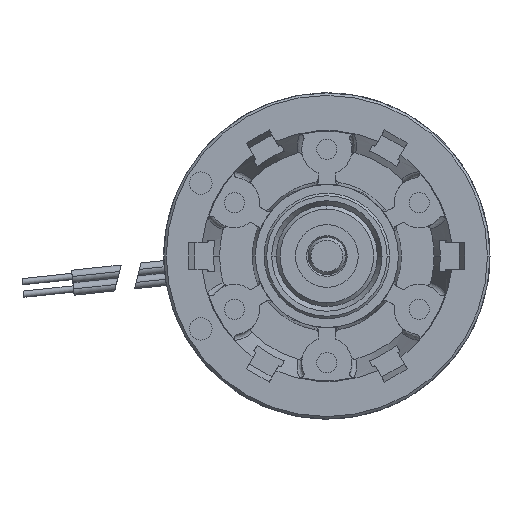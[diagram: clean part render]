
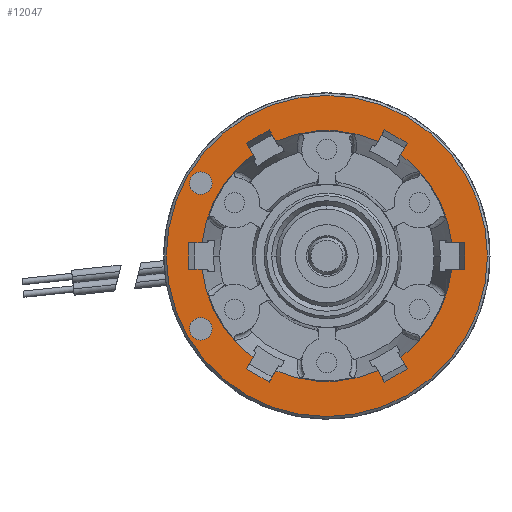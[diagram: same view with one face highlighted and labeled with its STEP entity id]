
A CAD part, left-side view. The second image highlights one B-rep face of the part: STEP entity #12047.
In plain terms, the highlighted planar face has unit normal (-1, 0, 0).
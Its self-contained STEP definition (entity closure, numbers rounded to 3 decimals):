
#4077=CARTESIAN_POINT('',(-1.6,9.945,1.05));
#4087=CARTESIAN_POINT('',(-1.6,0.,0.));
#4088=DIRECTION('',(1.,0.,0.));
#4089=DIRECTION('',(0.,0.994,0.105));
#4090=AXIS2_PLACEMENT_3D('',#4087,#4088,#4089);
#4141=CARTESIAN_POINT('',(-1.6,4.063,9.137));
#4151=CARTESIAN_POINT('',(-1.6,0.,0.));
#4152=DIRECTION('',(1.,0.,0.));
#4153=DIRECTION('',(0.,0.406,0.914));
#4154=AXIS2_PLACEMENT_3D('',#4151,#4152,#4153);
#4205=CARTESIAN_POINT('',(-1.6,-5.882,8.087));
#4215=CARTESIAN_POINT('',(-1.6,0.,0.));
#4216=DIRECTION('',(1.,0.,0.));
#4217=DIRECTION('',(0.,-0.588,0.809));
#4218=AXIS2_PLACEMENT_3D('',#4215,#4216,#4217);
#4279=CARTESIAN_POINT('',(-1.6,0.,0.));
#4280=DIRECTION('',(-1.,0.,0.));
#4281=DIRECTION('',(0.,0.994,-0.105));
#4282=AXIS2_PLACEMENT_3D('',#4279,#4280,#4281);
#4292=CARTESIAN_POINT('',(-1.6,9.945,-1.05));
#4419=CARTESIAN_POINT('',(-1.6,-9.945,-1.05));
#4429=CARTESIAN_POINT('',(-1.6,0.,0.));
#4430=DIRECTION('',(-1.,0.,0.));
#4431=DIRECTION('',(0.,-0.588,-0.809));
#4432=AXIS2_PLACEMENT_3D('',#4429,#4430,#4431);
#4483=CARTESIAN_POINT('',(-1.6,-4.063,-9.137));
#4493=CARTESIAN_POINT('',(-1.6,0.,0.));
#4494=DIRECTION('',(-1.,0.,0.));
#4495=DIRECTION('',(0.,0.406,-0.914));
#4496=AXIS2_PLACEMENT_3D('',#4493,#4494,#4495);
#4564=CARTESIAN_POINT('',(-1.6,0.,0.));
#4565=DIRECTION('',(-1.,0.,0.));
#4566=DIRECTION('',(0.,1.,0.));
#4567=AXIS2_PLACEMENT_3D('',#4564,#4565,#4566);
#4572=CARTESIAN_POINT('',(-1.6,0.,0.));
#4573=DIRECTION('',(-1.,0.,0.));
#4574=DIRECTION('',(0.,-1.,0.));
#4575=AXIS2_PLACEMENT_3D('',#4572,#4573,#4574);
#4580=CARTESIAN_POINT('',(-1.6,10.05,5.8));
#4581=DIRECTION('',(-1.,0.,0.));
#4582=DIRECTION('',(0.,0.,1.));
#4583=AXIS2_PLACEMENT_3D('',#4580,#4581,#4582);
#4588=CARTESIAN_POINT('',(-1.6,10.05,5.8));
#4589=DIRECTION('',(-1.,0.,0.));
#4590=DIRECTION('',(0.,0.,-1.));
#4591=AXIS2_PLACEMENT_3D('',#4588,#4589,#4590);
#4596=CARTESIAN_POINT('',(-1.6,10.05,-5.8));
#4597=DIRECTION('',(-1.,0.,0.));
#4598=DIRECTION('',(0.,0.,1.));
#4599=AXIS2_PLACEMENT_3D('',#4596,#4597,#4598);
#4604=CARTESIAN_POINT('',(-1.6,10.05,-5.8));
#4605=DIRECTION('',(-1.,0.,0.));
#4606=DIRECTION('',(0.,0.,-1.));
#4607=AXIS2_PLACEMENT_3D('',#4604,#4605,#4606);
#4612=DIRECTION('',(0.,-0.5,0.866));
#4613=VECTOR('',#4612,1.055);
#4614=CARTESIAN_POINT('',(-1.6,4.591,-10.051));
#4615=LINE('',#4614,#4613);
#4619=DIRECTION('',(0.,-0.5,-0.866));
#4620=VECTOR('',#4619,1.055);
#4621=CARTESIAN_POINT('',(-1.6,-4.063,-9.137));
#4622=LINE('',#4621,#4620);
#4626=DIRECTION('',(0.,0.866,-0.5));
#4627=VECTOR('',#4626,2.1);
#4628=CARTESIAN_POINT('',(-1.6,-6.409,-9.001));
#4629=LINE('',#4628,#4627);
#4633=DIRECTION('',(0.,0.5,0.866));
#4634=VECTOR('',#4633,1.055);
#4635=CARTESIAN_POINT('',(-1.6,-6.409,-9.001));
#4636=LINE('',#4635,#4634);
#4640=DIRECTION('',(0.,-1.,0.));
#4641=VECTOR('',#4640,1.055);
#4642=CARTESIAN_POINT('',(-1.6,-9.945,-1.05));
#4643=LINE('',#4642,#4641);
#4647=DIRECTION('',(0.,0.,-1.));
#4648=VECTOR('',#4647,2.1);
#4649=CARTESIAN_POINT('',(-1.6,-11.,1.05));
#4650=LINE('',#4649,#4648);
#4654=DIRECTION('',(0.,1.,0.));
#4655=VECTOR('',#4654,1.055);
#4656=CARTESIAN_POINT('',(-1.6,-11.,1.05));
#4657=LINE('',#4656,#4655);
#4661=DIRECTION('',(0.,-0.5,0.866));
#4662=VECTOR('',#4661,1.055);
#4663=CARTESIAN_POINT('',(-1.6,-5.882,8.087));
#4664=LINE('',#4663,#4662);
#4668=DIRECTION('',(0.,-0.866,-0.5));
#4669=VECTOR('',#4668,2.1);
#4670=CARTESIAN_POINT('',(-1.6,-4.591,10.051));
#4671=LINE('',#4670,#4669);
#4675=DIRECTION('',(0.,0.5,-0.866));
#4676=VECTOR('',#4675,1.055);
#4677=CARTESIAN_POINT('',(-1.6,-4.591,10.051));
#4678=LINE('',#4677,#4676);
#4682=DIRECTION('',(0.,0.5,0.866));
#4683=VECTOR('',#4682,1.055);
#4684=CARTESIAN_POINT('',(-1.6,4.063,9.137));
#4685=LINE('',#4684,#4683);
#4689=DIRECTION('',(0.,-0.866,0.5));
#4690=VECTOR('',#4689,2.1);
#4691=CARTESIAN_POINT('',(-1.6,6.409,9.001));
#4692=LINE('',#4691,#4690);
#4696=DIRECTION('',(0.,-0.5,-0.866));
#4697=VECTOR('',#4696,1.055);
#4698=CARTESIAN_POINT('',(-1.6,6.409,9.001));
#4699=LINE('',#4698,#4697);
#4703=DIRECTION('',(0.,1.,0.));
#4704=VECTOR('',#4703,1.055);
#4705=CARTESIAN_POINT('',(-1.6,9.945,1.05));
#4706=LINE('',#4705,#4704);
#4710=DIRECTION('',(0.,0.,1.));
#4711=VECTOR('',#4710,2.1);
#4712=CARTESIAN_POINT('',(-1.6,11.,-1.05));
#4713=LINE('',#4712,#4711);
#4717=DIRECTION('',(0.,-1.,0.));
#4718=VECTOR('',#4717,1.055);
#4719=CARTESIAN_POINT('',(-1.6,11.,-1.05));
#4720=LINE('',#4719,#4718);
#4724=DIRECTION('',(0.,0.5,-0.866));
#4725=VECTOR('',#4724,1.055);
#4726=CARTESIAN_POINT('',(-1.6,5.882,-8.087));
#4727=LINE('',#4726,#4725);
#4731=DIRECTION('',(0.,0.866,0.5));
#4732=VECTOR('',#4731,2.1);
#4733=CARTESIAN_POINT('',(-1.6,4.591,-10.051));
#4734=LINE('',#4733,#4732);
#8242=CARTESIAN_POINT('',(-1.6,12.8,0.));
#8243=CARTESIAN_POINT('',(-1.6,-12.8,0.));
#8244=VERTEX_POINT('',#8242);
#8245=VERTEX_POINT('',#8243);
#8258=CARTESIAN_POINT('',(-1.6,10.05,6.7));
#8259=CARTESIAN_POINT('',(-1.6,10.05,4.9));
#8260=VERTEX_POINT('',#8258);
#8261=VERTEX_POINT('',#8259);
#8262=CARTESIAN_POINT('',(-1.6,10.05,-4.9));
#8263=CARTESIAN_POINT('',(-1.6,10.05,-6.7));
#8264=VERTEX_POINT('',#8262);
#8265=VERTEX_POINT('',#8263);
#8492=VERTEX_POINT('',#4077);
#8493=VERTEX_POINT('',#4292);
#8494=CARTESIAN_POINT('',(-1.6,11.,-1.05));
#8495=VERTEX_POINT('',#8494);
#8496=CARTESIAN_POINT('',(-1.6,11.,1.05));
#8497=VERTEX_POINT('',#8496);
#8582=CARTESIAN_POINT('',(-1.6,5.882,8.087));
#8583=VERTEX_POINT('',#8582);
#8588=VERTEX_POINT('',#4141);
#8589=CARTESIAN_POINT('',(-1.6,6.409,9.001));
#8590=VERTEX_POINT('',#8589);
#8591=CARTESIAN_POINT('',(-1.6,4.591,10.051));
#8592=VERTEX_POINT('',#8591);
#8597=CARTESIAN_POINT('',(-1.6,-4.063,9.137));
#8598=VERTEX_POINT('',#8597);
#8603=VERTEX_POINT('',#4205);
#8604=CARTESIAN_POINT('',(-1.6,-4.591,10.051));
#8605=VERTEX_POINT('',#8604);
#8606=CARTESIAN_POINT('',(-1.6,-6.409,9.001));
#8607=VERTEX_POINT('',#8606);
#8614=CARTESIAN_POINT('',(-1.6,-9.945,1.05));
#8615=VERTEX_POINT('',#8614);
#8624=VERTEX_POINT('',#4419);
#8625=CARTESIAN_POINT('',(-1.6,-11.,1.05));
#8626=VERTEX_POINT('',#8625);
#8627=CARTESIAN_POINT('',(-1.6,-11.,-1.05));
#8628=VERTEX_POINT('',#8627);
#8633=CARTESIAN_POINT('',(-1.6,-5.882,-8.087));
#8634=VERTEX_POINT('',#8633);
#8639=VERTEX_POINT('',#4483);
#8640=CARTESIAN_POINT('',(-1.6,-6.409,-9.001));
#8641=VERTEX_POINT('',#8640);
#8642=CARTESIAN_POINT('',(-1.6,-4.591,-10.051));
#8643=VERTEX_POINT('',#8642);
#8648=CARTESIAN_POINT('',(-1.6,5.882,-8.087));
#8649=VERTEX_POINT('',#8648);
#8650=CARTESIAN_POINT('',(-1.6,4.063,-9.137));
#8651=VERTEX_POINT('',#8650);
#8656=CARTESIAN_POINT('',(-1.6,4.591,-10.051));
#8657=VERTEX_POINT('',#8656);
#8658=CARTESIAN_POINT('',(-1.6,6.409,-9.001));
#8659=VERTEX_POINT('',#8658);
#11982=CARTESIAN_POINT('',(-1.6,0.,0.));
#11983=DIRECTION('',(1.,0.,0.));
#11984=DIRECTION('',(0.,-1.,0.));
#11985=AXIS2_PLACEMENT_3D('',#11982,#11983,#11984);
#11986=PLANE('',#11985);
#11988=ORIENTED_EDGE('',*,*,#11987,.F.);
#11990=ORIENTED_EDGE('',*,*,#11989,.F.);
#11991=EDGE_LOOP('',(#11988,#11990));
#11992=FACE_OUTER_BOUND('',#11991,.F.);
#11994=ORIENTED_EDGE('',*,*,#11993,.T.);
#11996=ORIENTED_EDGE('',*,*,#11995,.T.);
#11997=EDGE_LOOP('',(#11994,#11996));
#11998=FACE_BOUND('',#11997,.F.);
#12000=ORIENTED_EDGE('',*,*,#11999,.T.);
#12002=ORIENTED_EDGE('',*,*,#12001,.T.);
#12003=EDGE_LOOP('',(#12000,#12002));
#12004=FACE_BOUND('',#12003,.F.);
#12005=ORIENTED_EDGE('',*,*,#11949,.T.);
#12006=ORIENTED_EDGE('',*,*,#11872,.T.);
#12008=ORIENTED_EDGE('',*,*,#12007,.T.);
#12010=ORIENTED_EDGE('',*,*,#12009,.F.);
#12012=ORIENTED_EDGE('',*,*,#12011,.T.);
#12013=ORIENTED_EDGE('',*,*,#11856,.T.);
#12015=ORIENTED_EDGE('',*,*,#12014,.T.);
#12017=ORIENTED_EDGE('',*,*,#12016,.F.);
#12019=ORIENTED_EDGE('',*,*,#12018,.T.);
#12020=ORIENTED_EDGE('',*,*,#11782,.F.);
#12022=ORIENTED_EDGE('',*,*,#12021,.T.);
#12024=ORIENTED_EDGE('',*,*,#12023,.F.);
#12026=ORIENTED_EDGE('',*,*,#12025,.T.);
#12027=ORIENTED_EDGE('',*,*,#11766,.F.);
#12029=ORIENTED_EDGE('',*,*,#12028,.T.);
#12031=ORIENTED_EDGE('',*,*,#12030,.F.);
#12033=ORIENTED_EDGE('',*,*,#12032,.T.);
#12034=ORIENTED_EDGE('',*,*,#11750,.F.);
#12036=ORIENTED_EDGE('',*,*,#12035,.T.);
#12038=ORIENTED_EDGE('',*,*,#12037,.F.);
#12040=ORIENTED_EDGE('',*,*,#12039,.T.);
#12041=ORIENTED_EDGE('',*,*,#11811,.T.);
#12043=ORIENTED_EDGE('',*,*,#12042,.T.);
#12044=ORIENTED_EDGE('',*,*,#11966,.F.);
#12045=EDGE_LOOP('',(#12005,#12006,#12008,#12010,#12012,#12013,#12015,#12017,
#12019,#12020,#12022,#12024,#12026,#12027,#12029,#12031,#12033,#12034,#12036,
#12038,#12040,#12041,#12043,#12044));
#12046=FACE_BOUND('',#12045,.F.);
#12047=ADVANCED_FACE('',(#11992,#11998,#12004,#12046),#11986,.F.);
#4091=CIRCLE('',#4090,10.);
#4155=CIRCLE('',#4154,10.);
#4219=CIRCLE('',#4218,10.);
#4283=CIRCLE('',#4282,10.);
#4433=CIRCLE('',#4432,10.);
#4497=CIRCLE('',#4496,10.);
#4568=CIRCLE('',#4567,12.8);
#4576=CIRCLE('',#4575,12.8);
#4584=CIRCLE('',#4583,0.9);
#4592=CIRCLE('',#4591,0.9);
#4600=CIRCLE('',#4599,0.9);
#4608=CIRCLE('',#4607,0.9);
#11750=EDGE_CURVE('',#8492,#8583,#4091,.T.);
#11766=EDGE_CURVE('',#8588,#8598,#4155,.T.);
#11782=EDGE_CURVE('',#8603,#8615,#4219,.T.);
#11811=EDGE_CURVE('',#8493,#8649,#4283,.T.);
#11856=EDGE_CURVE('',#8634,#8624,#4433,.T.);
#11872=EDGE_CURVE('',#8651,#8639,#4497,.T.);
#11949=EDGE_CURVE('',#8657,#8651,#4615,.T.);
#11966=EDGE_CURVE('',#8657,#8659,#4734,.T.);
#11987=EDGE_CURVE('',#8244,#8245,#4568,.T.);
#11989=EDGE_CURVE('',#8245,#8244,#4576,.T.);
#11993=EDGE_CURVE('',#8260,#8261,#4584,.T.);
#11995=EDGE_CURVE('',#8261,#8260,#4592,.T.);
#11999=EDGE_CURVE('',#8264,#8265,#4600,.T.);
#12001=EDGE_CURVE('',#8265,#8264,#4608,.T.);
#12007=EDGE_CURVE('',#8639,#8643,#4622,.T.);
#12009=EDGE_CURVE('',#8641,#8643,#4629,.T.);
#12011=EDGE_CURVE('',#8641,#8634,#4636,.T.);
#12014=EDGE_CURVE('',#8624,#8628,#4643,.T.);
#12016=EDGE_CURVE('',#8626,#8628,#4650,.T.);
#12018=EDGE_CURVE('',#8626,#8615,#4657,.T.);
#12021=EDGE_CURVE('',#8603,#8607,#4664,.T.);
#12023=EDGE_CURVE('',#8605,#8607,#4671,.T.);
#12025=EDGE_CURVE('',#8605,#8598,#4678,.T.);
#12028=EDGE_CURVE('',#8588,#8592,#4685,.T.);
#12030=EDGE_CURVE('',#8590,#8592,#4692,.T.);
#12032=EDGE_CURVE('',#8590,#8583,#4699,.T.);
#12035=EDGE_CURVE('',#8492,#8497,#4706,.T.);
#12037=EDGE_CURVE('',#8495,#8497,#4713,.T.);
#12039=EDGE_CURVE('',#8495,#8493,#4720,.T.);
#12042=EDGE_CURVE('',#8649,#8659,#4727,.T.);
